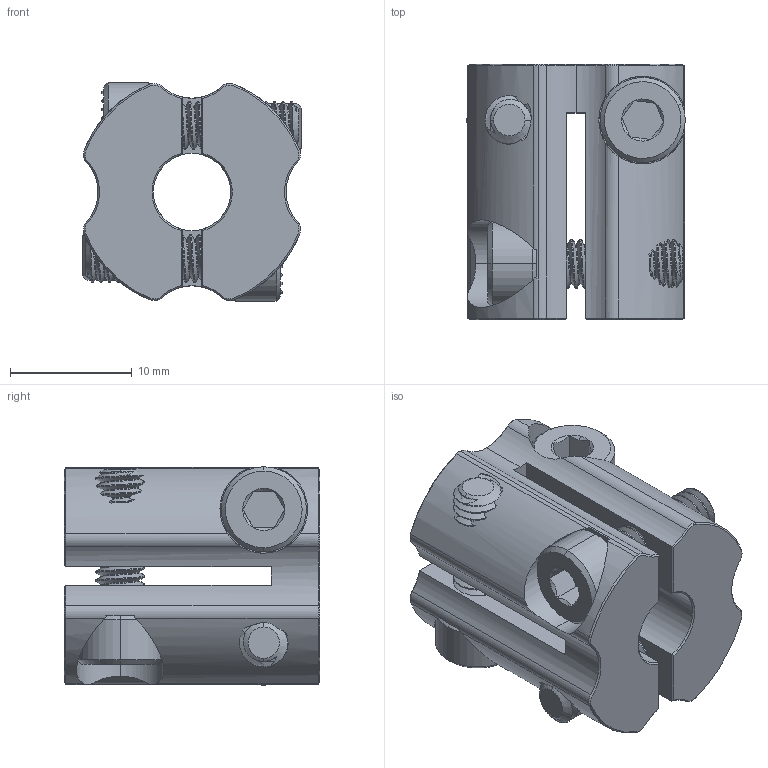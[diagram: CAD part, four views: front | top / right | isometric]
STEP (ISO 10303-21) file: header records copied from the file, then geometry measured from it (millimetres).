
FILE_DESCRIPTION (( 'STEP AP203' ), '1' );
FILE_NAME ('4007-0250-0250 assembly.STEP', '2021-03-04T20:36:20', ( '' ), ( '' ), 'SwSTEP 2.0', 'SolidWorks 2016', '' );
FILE_SCHEMA (( 'CONFIG_CONTROL_DESIGN' ));
Length unit declared in the file: millimetre
Products named in the file (3): 2800-0004-0012_90128A207; 4007-0250-0250 assembly; 4007-0250-0250
Assembly tree (5 placements, depth 2):
  4007-0250-0250 assembly
    4007-0250-0250
    2800-0004-0012_90128A207  x4
Bounding box: 17.95 x 21 x 17.95 mm (x, y, z)
Volume: 4147.9 mm3; surface area: 4894 mm2
Topology: 5 solids, 5 shells, 712 faces, 1977 edges, 1279 vertices
Faces by surface type: cylinder 504, cone 98, plane 68, bspline 42
Entity records: 54625 total; most frequent: CARTESIAN_POINT 45050, ORIENTED_EDGE 2400, DIRECTION 1478, EDGE_CURVE 1200, VERTEX_POINT 778, AXIS2_PLACEMENT_3D 561, EDGE_LOOP 444, ADVANCED_FACE 424
